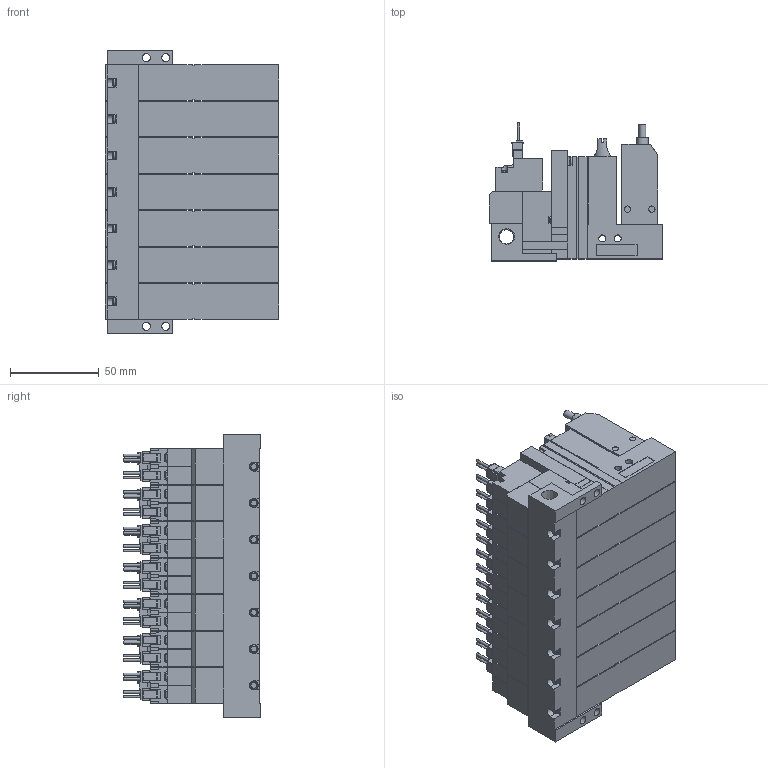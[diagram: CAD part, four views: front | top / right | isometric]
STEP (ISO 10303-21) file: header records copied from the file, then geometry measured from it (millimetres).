
FILE_DESCRIPTION(('STEP AP203'),'1');
FILE_NAME('ABS_ABPLC5BLR707.stp','2025-02-25T02:21:34',(' '),(' '),'Spatial InterOp 3D',' ',' ');
FILE_SCHEMA(('CONFIG_CONTROL_DESIGN'));
Length unit declared in the file: millimetre
Products named in the file (5): BMC22M※※※※ABS_ABPLC5BLR707; Solenoid valve B; Pressure sensor ABSLC; Unit LC; Base MR70R
Assembly tree (22 placements, depth 2):
  BMC22M※※※※ABS_ABPLC5BLR707
    Solenoid valve B  x7
    Pressure sensor ABSLC  x7
    Unit LC  x7
    Base MR70R
Bounding box: 97.6 x 77.45 x 159 mm (x, y, z)
Volume: 709581.9 mm3; surface area: 185031.8 mm2
Topology: 22 solids, 22 shells, 2730 faces, 7325 edges, 4814 vertices
Faces by surface type: plane 2324, cylinder 313, cone 51, torus 42
Full cylindrical faces by diameter (mm): 1.4 x28, 2.5 x7, 3 x28, 3.5 x42, 3.6 x7, 4 x21, 4.134 x7, 4.5 x4, 5.2 x7, 6 x7, 6.5 x7, 6.6 x7, 8.279 x1
Entity records: 15608 total; most frequent: CARTESIAN_POINT 3038, DIRECTION 2487, ORIENTED_EDGE 2404, EDGE_CURVE 1202, LINE 957, VECTOR 957, VERTEX_POINT 845, AXIS2_PLACEMENT_3D 765
